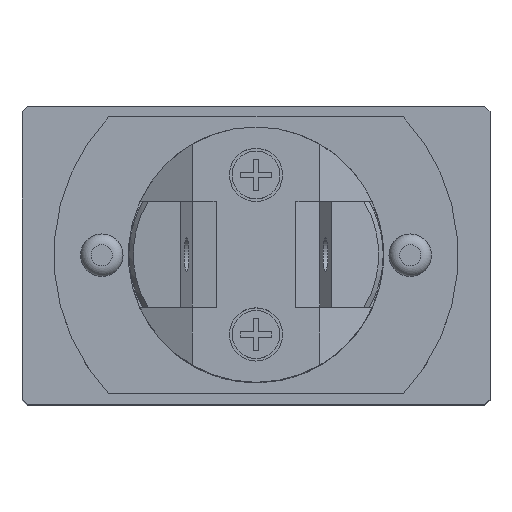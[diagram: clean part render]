
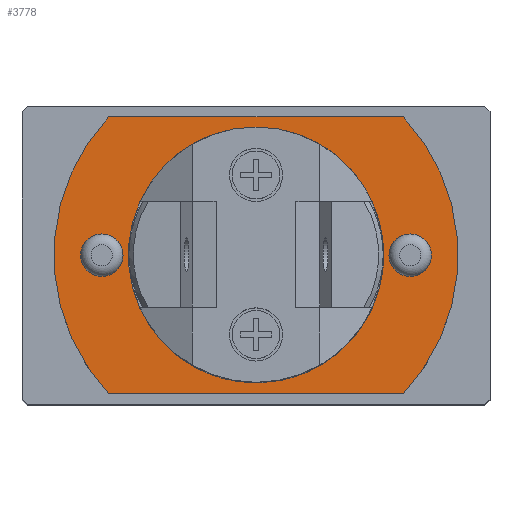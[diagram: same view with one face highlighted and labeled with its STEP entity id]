
A CAD part, top view. The second image highlights one B-rep face of the part: STEP entity #3778.
In plain terms, the highlighted planar face has unit normal (0, 0, 1).
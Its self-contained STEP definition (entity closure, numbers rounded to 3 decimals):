
#122 = EDGE_LOOP ( 'NONE', ( #4098 ) ) ;
#333 = FACE_BOUND ( 'NONE', #2143, .T. ) ;
#358 = DIRECTION ( 'NONE',  ( 1., 0., 0. ) ) ;
#420 = VERTEX_POINT ( 'NONE', #3944 ) ;
#473 = CIRCLE ( 'NONE', #3377, 1. ) ;
#514 = CARTESIAN_POINT ( 'NONE',  ( 0., 0., 8. ) ) ;
#600 = CARTESIAN_POINT ( 'NONE',  ( 8.25, 0., 8. ) ) ;
#690 = DIRECTION ( 'NONE',  ( 0., 0., 1. ) ) ;
#702 = CARTESIAN_POINT ( 'NONE',  ( -6.928, -6.5, 8. ) ) ;
#750 = DIRECTION ( 'NONE',  ( 1., 0., 0. ) ) ;
#772 = AXIS2_PLACEMENT_3D ( 'NONE', #1991, #690, #3551 ) ;
#781 = CIRCLE ( 'NONE', #1096, 1. ) ;
#795 = CARTESIAN_POINT ( 'NONE',  ( 0., 0., 8. ) ) ;
#832 = EDGE_CURVE ( 'NONE', #3654, #3654, #3609, .T. ) ;
#922 = VERTEX_POINT ( 'NONE', #1024 ) ;
#1021 = VECTOR ( 'NONE', #3628, 1000. ) ;
#1024 = CARTESIAN_POINT ( 'NONE',  ( 6.928, -6.5, 8. ) ) ;
#1096 = AXIS2_PLACEMENT_3D ( 'NONE', #4845, #2118, #3315 ) ;
#1304 = ORIENTED_EDGE ( 'NONE', *, *, #4567, .T. ) ;
#1341 = DIRECTION ( 'NONE',  ( 0., 0., 1. ) ) ;
#1523 = LINE ( 'NONE', #702, #2793 ) ;
#1572 = FACE_BOUND ( 'NONE', #122, .T. ) ;
#1574 = DIRECTION ( 'NONE',  ( 1., 0., 0. ) ) ;
#1646 = CARTESIAN_POINT ( 'NONE',  ( 0., 0., 8. ) ) ;
#1659 = VERTEX_POINT ( 'NONE', #4256 ) ;
#1673 = CIRCLE ( 'NONE', #772, 9.5 ) ;
#1884 = DIRECTION ( 'NONE',  ( 1., 0., 0. ) ) ;
#1991 = CARTESIAN_POINT ( 'NONE',  ( 0., 0., 8. ) ) ;
#1999 = EDGE_LOOP ( 'NONE', ( #2262, #2549, #1304, #3000 ) ) ;
#2071 = EDGE_CURVE ( 'NONE', #420, #1659, #2534, .T. ) ;
#2116 = AXIS2_PLACEMENT_3D ( 'NONE', #1646, #4013, #1574 ) ;
#2118 = DIRECTION ( 'NONE',  ( 0., 0., 1. ) ) ;
#2135 = AXIS2_PLACEMENT_3D ( 'NONE', #514, #1341, #3261 ) ;
#2143 = EDGE_LOOP ( 'NONE', ( #5036 ) ) ;
#2262 = ORIENTED_EDGE ( 'NONE', *, *, #2071, .T. ) ;
#2274 = EDGE_CURVE ( 'NONE', #1659, #922, #1523, .T. ) ;
#2321 = VERTEX_POINT ( 'NONE', #3889 ) ;
#2407 = CARTESIAN_POINT ( 'NONE',  ( 6., 0., 8. ) ) ;
#2534 = CIRCLE ( 'NONE', #2135, 9.5 ) ;
#2549 = ORIENTED_EDGE ( 'NONE', *, *, #2274, .T. ) ;
#2559 = CARTESIAN_POINT ( 'NONE',  ( -6.25, 0., 8. ) ) ;
#2669 = EDGE_CURVE ( 'NONE', #4562, #4562, #473, .T. ) ;
#2756 = PLANE ( 'NONE',  #5013 ) ;
#2784 = DIRECTION ( 'NONE',  ( 0., 0., 1. ) ) ;
#2793 = VECTOR ( 'NONE', #358, 1000. ) ;
#2984 = VERTEX_POINT ( 'NONE', #600 ) ;
#3000 = ORIENTED_EDGE ( 'NONE', *, *, #3528, .T. ) ;
#3157 = CARTESIAN_POINT ( 'NONE',  ( -7.25, 0., 8. ) ) ;
#3261 = DIRECTION ( 'NONE',  ( 1., 0., 0. ) ) ;
#3291 = LINE ( 'NONE', #3705, #1021 ) ;
#3315 = DIRECTION ( 'NONE',  ( 1., 0., 0. ) ) ;
#3377 = AXIS2_PLACEMENT_3D ( 'NONE', #3157, #4728, #1884 ) ;
#3528 = EDGE_CURVE ( 'NONE', #2321, #420, #3291, .T. ) ;
#3551 = DIRECTION ( 'NONE',  ( 1., 0., 0. ) ) ;
#3557 = EDGE_CURVE ( 'NONE', #2984, #2984, #781, .T. ) ;
#3609 = CIRCLE ( 'NONE', #2116, 6. ) ;
#3628 = DIRECTION ( 'NONE',  ( -1., 0., 0. ) ) ;
#3654 = VERTEX_POINT ( 'NONE', #2407 ) ;
#3705 = CARTESIAN_POINT ( 'NONE',  ( -6.928, 6.5, 8. ) ) ;
#3778 = ADVANCED_FACE ( 'NONE', ( #1572, #4313, #333, #4730 ), #2756, .T. ) ;
#3889 = CARTESIAN_POINT ( 'NONE',  ( 6.928, 6.5, 8. ) ) ;
#3944 = CARTESIAN_POINT ( 'NONE',  ( -6.928, 6.5, 8. ) ) ;
#4013 = DIRECTION ( 'NONE',  ( 0., 0., 1. ) ) ;
#4098 = ORIENTED_EDGE ( 'NONE', *, *, #3557, .F. ) ;
#4170 = EDGE_LOOP ( 'NONE', ( #4293 ) ) ;
#4256 = CARTESIAN_POINT ( 'NONE',  ( -6.928, -6.5, 8. ) ) ;
#4293 = ORIENTED_EDGE ( 'NONE', *, *, #2669, .F. ) ;
#4313 = FACE_BOUND ( 'NONE', #4170, .T. ) ;
#4562 = VERTEX_POINT ( 'NONE', #2559 ) ;
#4567 = EDGE_CURVE ( 'NONE', #922, #2321, #1673, .T. ) ;
#4728 = DIRECTION ( 'NONE',  ( 0., 0., 1. ) ) ;
#4730 = FACE_OUTER_BOUND ( 'NONE', #1999, .T. ) ;
#4845 = CARTESIAN_POINT ( 'NONE',  ( 7.25, 0., 8. ) ) ;
#5013 = AXIS2_PLACEMENT_3D ( 'NONE', #795, #2784, #750 ) ;
#5036 = ORIENTED_EDGE ( 'NONE', *, *, #832, .F. ) ;
